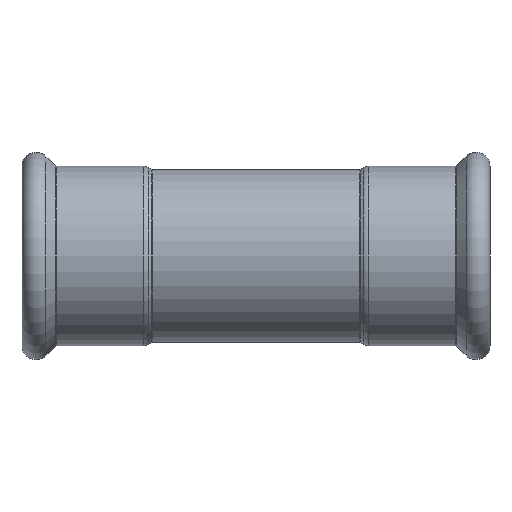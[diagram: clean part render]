
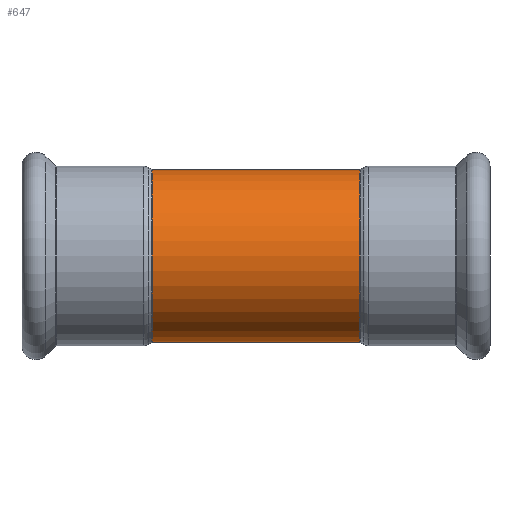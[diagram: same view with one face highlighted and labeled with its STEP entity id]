
A CAD part, front view. The second image highlights one B-rep face of the part: STEP entity #647.
In plain terms, the highlighted cylindrical face has radius 18.5 mm (diameter 37 mm), a partial arc.
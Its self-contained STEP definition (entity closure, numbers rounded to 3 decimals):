
#145 = DIRECTION ( 'NONE',  ( 0., 0., 1. ) ) ;
#215 = DIRECTION ( 'NONE',  ( -1., 0., 0. ) ) ;
#309 = CIRCLE ( 'NONE', #583, 18.5 ) ;
#315 = CIRCLE ( 'NONE', #3377, 18.5 ) ;
#451 = DIRECTION ( 'NONE',  ( 0., 0., 1. ) ) ;
#583 = AXIS2_PLACEMENT_3D ( 'NONE', #1098, #3101, #3422 ) ;
#647 = ADVANCED_FACE ( 'NONE', ( #1711 ), #1333, .T. ) ;
#936 = VERTEX_POINT ( 'NONE', #1108 ) ;
#1008 = DIRECTION ( 'NONE',  ( -1., 0., 0. ) ) ;
#1098 = CARTESIAN_POINT ( 'NONE',  ( 22.154, 0., 0. ) ) ;
#1108 = CARTESIAN_POINT ( 'NONE',  ( 22.154, 0., -18.5 ) ) ;
#1206 = AXIS2_PLACEMENT_3D ( 'NONE', #2170, #3493, #145 ) ;
#1333 = CYLINDRICAL_SURFACE ( 'NONE', #1206, 18.5 ) ;
#1658 = ORIENTED_EDGE ( 'NONE', *, *, #1973, .T. ) ;
#1675 = EDGE_CURVE ( 'NONE', #936, #1782, #3871, .T. ) ;
#1711 = FACE_OUTER_BOUND ( 'NONE', #3050, .T. ) ;
#1765 = ORIENTED_EDGE ( 'NONE', *, *, #2515, .T. ) ;
#1782 = VERTEX_POINT ( 'NONE', #3725 ) ;
#1951 = VERTEX_POINT ( 'NONE', #2093 ) ;
#1973 = EDGE_CURVE ( 'NONE', #936, #2126, #309, .T. ) ;
#1997 = VECTOR ( 'NONE', #1008, 1000. ) ;
#2093 = CARTESIAN_POINT ( 'NONE',  ( -22.154, 0., 18.5 ) ) ;
#2126 = VERTEX_POINT ( 'NONE', #3902 ) ;
#2170 = CARTESIAN_POINT ( 'NONE',  ( 27.146, 0., 0. ) ) ;
#2233 = CARTESIAN_POINT ( 'NONE',  ( 27.146, 0., 18.5 ) ) ;
#2515 = EDGE_CURVE ( 'NONE', #2126, #1951, #3190, .T. ) ;
#3050 = EDGE_LOOP ( 'NONE', ( #3440, #1658, #1765, #4105 ) ) ;
#3101 = DIRECTION ( 'NONE',  ( -1., 0., 0. ) ) ;
#3190 = LINE ( 'NONE', #2233, #3293 ) ;
#3293 = VECTOR ( 'NONE', #215, 1000. ) ;
#3307 = CARTESIAN_POINT ( 'NONE',  ( 27.146, 0., -18.5 ) ) ;
#3377 = AXIS2_PLACEMENT_3D ( 'NONE', #3776, #4079, #451 ) ;
#3422 = DIRECTION ( 'NONE',  ( 0., 0., 1. ) ) ;
#3440 = ORIENTED_EDGE ( 'NONE', *, *, #1675, .F. ) ;
#3493 = DIRECTION ( 'NONE',  ( -1., 0., 0. ) ) ;
#3725 = CARTESIAN_POINT ( 'NONE',  ( -22.154, 0., -18.5 ) ) ;
#3776 = CARTESIAN_POINT ( 'NONE',  ( -22.154, 0., 0. ) ) ;
#3871 = LINE ( 'NONE', #3307, #1997 ) ;
#3902 = CARTESIAN_POINT ( 'NONE',  ( 22.154, 0., 18.5 ) ) ;
#3920 = EDGE_CURVE ( 'NONE', #1782, #1951, #315, .T. ) ;
#4079 = DIRECTION ( 'NONE',  ( -1., 0., 0. ) ) ;
#4105 = ORIENTED_EDGE ( 'NONE', *, *, #3920, .F. ) ;
